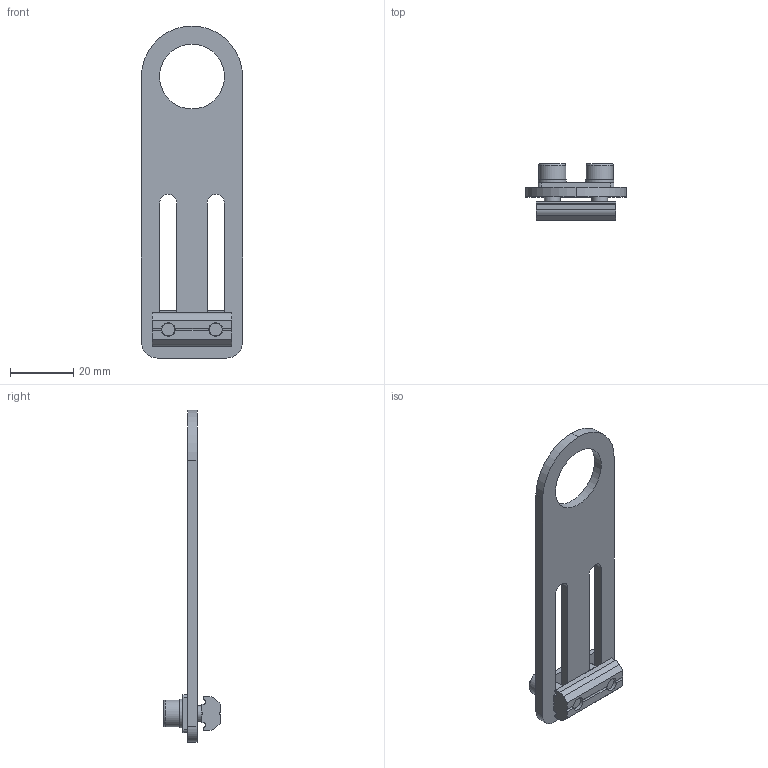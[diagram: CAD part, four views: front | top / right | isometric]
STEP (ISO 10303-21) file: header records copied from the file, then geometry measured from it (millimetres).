
FILE_DESCRIPTION(('STEP AP214'),'1');
FILE_NAME('CA,SCM.20.X.stp','2018-04-16T14:53:45',(' '),(' '),'Spatial InterOp 3D',' ',' ');
FILE_SCHEMA(('AUTOMOTIVE_DESIGN { 1 0 10303 214 1 1 1 1 }'));
Length unit declared in the file: millimetre
Products named in the file (8): V.TCE5x12; R.5.SCH; R.05.15; CA.GWP.5.15; GWP.5.15; CA.SCM.20; SCM.20
Assembly tree (9 placements, depth 3):
  (unnamed)
    V.TCE5x12  x2
    R.5.SCH  x2
    R.05.15
    CA.GWP.5.15
      GWP.5.15
    CA.SCM.20
      SCM.20
Bounding box: 32 x 18.01 x 105 mm (x, y, z)
Volume: 9805.1 mm3; surface area: 9180.2 mm2
Topology: 5 solids, 7 shells, 475 faces, 1385 edges, 918 vertices
Faces by surface type: plane 432, cylinder 37, torus 4, cone 2
Full cylindrical faces by diameter (mm): 4.3 x2, 5 x2, 5.3 x4, 8.5 x2, 9 x2, 20.5 x1
Entity records: 11155 total; most frequent: CARTESIAN_POINT 1616, DIRECTION 1558, ORIENTED_EDGE 1514, EDGE_CURVE 757, AXIS2_PLACEMENT_3D 531, VERTEX_POINT 509, LINE 496, VECTOR 496
